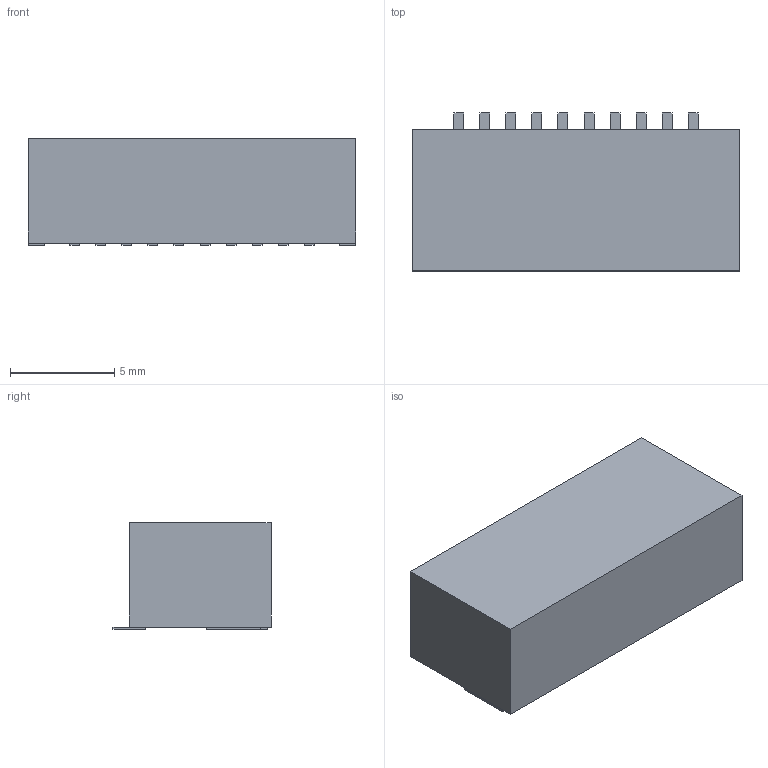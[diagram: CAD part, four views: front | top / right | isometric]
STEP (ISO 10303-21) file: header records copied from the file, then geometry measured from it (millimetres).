
FILE_DESCRIPTION(('FreeCAD Model'),'2;1');
FILE_NAME('/var/www/3D/0T/15868012.1.2.stp','2022-03-31T19:09:55',( 'Author'),(''),'Open CASCADE STEP processor 6.9','FreeCAD','Unknown' );
FILE_SCHEMA(('AUTOMOTIVE_DESIGN { 1 0 10303 214 1 1 1 1 }'));
Length unit declared in the file: millimetre
Products named in the file (3): ASSEMBLY; Body; Pins
Assembly tree (2 placements, depth 2):
  ASSEMBLY
    Body
    Pins
Bounding box: 15.75 x 7.59 x 5.1 mm (x, y, z)
Volume: 537.4 mm3; surface area: 488 mm2
Topology: 23 solids, 23 shells, 138 faces, 276 edges, 184 vertices
Faces by surface type: plane 138
Entity records: 7301 total; most frequent: CARTESIAN_POINT 1153, DIRECTION 1110, LINE 828, VECTOR 828, ORIENTED_EDGE 552, PCURVE 552, DEFINITIONAL_REPRESENTATION 552, EDGE_CURVE 276
